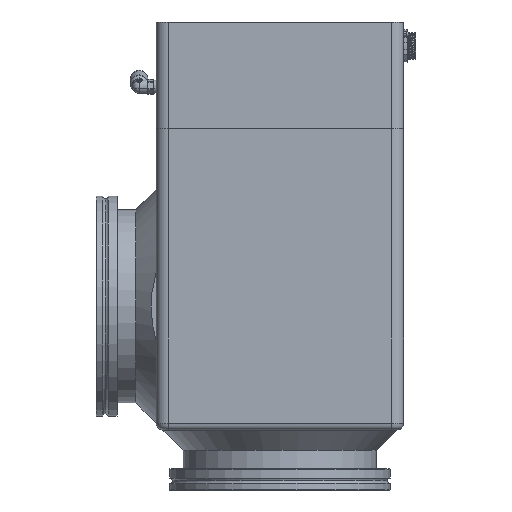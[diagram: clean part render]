
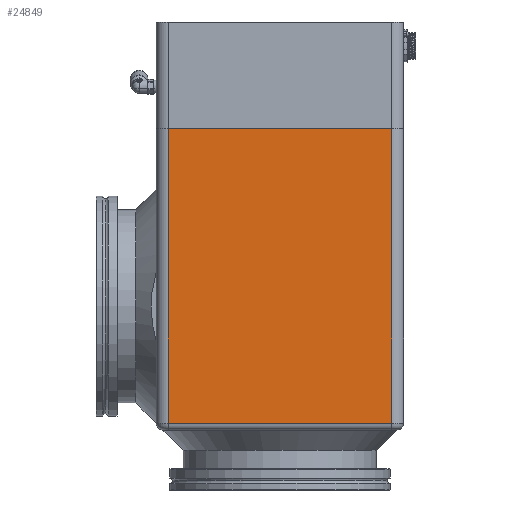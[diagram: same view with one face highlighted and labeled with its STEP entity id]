
A CAD part, front view. The second image highlights one B-rep face of the part: STEP entity #24849.
In plain terms, the highlighted planar face has unit normal (0, -1, 0).
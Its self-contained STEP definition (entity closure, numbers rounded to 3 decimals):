
#1167 = EDGE_CURVE ( 'NONE', #1512, #16035, #33810, .T. ) ;
#1198 = VERTEX_POINT ( 'NONE', #15408 ) ;
#1512 = VERTEX_POINT ( 'NONE', #25822 ) ;
#2343 = ORIENTED_EDGE ( 'NONE', *, *, #16369, .T. ) ;
#2649 = AXIS2_PLACEMENT_3D ( 'NONE', #25308, #33216, #20136 ) ;
#2697 = DIRECTION ( 'NONE',  ( 1., 0., 0. ) ) ;
#2864 = ORIENTED_EDGE ( 'NONE', *, *, #25215, .F. ) ;
#3201 = CARTESIAN_POINT ( 'NONE',  ( 66., -73., 178. ) ) ;
#4649 = DIRECTION ( 'NONE',  ( 0., 0., -1. ) ) ;
#4793 = EDGE_LOOP ( 'NONE', ( #27401, #2343, #32727, #2864 ) ) ;
#8348 = CARTESIAN_POINT ( 'NONE',  ( 66., -73., 4. ) ) ;
#9054 = VERTEX_POINT ( 'NONE', #19612 ) ;
#10178 = FACE_OUTER_BOUND ( 'NONE', #4793, .T. ) ;
#10196 = EDGE_CURVE ( 'NONE', #9054, #1198, #28411, .T. ) ;
#11405 = VECTOR ( 'NONE', #2697, 1000. ) ;
#12521 = VECTOR ( 'NONE', #28141, 1000. ) ;
#13712 = CARTESIAN_POINT ( 'NONE',  ( -73., -73., 178. ) ) ;
#14813 = PLANE ( 'NONE',  #2649 ) ;
#15408 = CARTESIAN_POINT ( 'NONE',  ( -66., -73., 4. ) ) ;
#16035 = VERTEX_POINT ( 'NONE', #3201 ) ;
#16369 = EDGE_CURVE ( 'NONE', #1198, #1512, #23994, .T. ) ;
#17635 = CARTESIAN_POINT ( 'NONE',  ( 66., -73., 178. ) ) ;
#19612 = CARTESIAN_POINT ( 'NONE',  ( -66., -73., 178. ) ) ;
#20136 = DIRECTION ( 'NONE',  ( 0., 0., 1. ) ) ;
#22717 = CARTESIAN_POINT ( 'NONE',  ( -66., -73., 178. ) ) ;
#23994 = LINE ( 'NONE', #8348, #32396 ) ;
#24849 = ADVANCED_FACE ( 'NONE', ( #10178 ), #14813, .F. ) ;
#25215 = EDGE_CURVE ( 'NONE', #9054, #16035, #29221, .T. ) ;
#25308 = CARTESIAN_POINT ( 'NONE',  ( -73., -73., 178. ) ) ;
#25822 = CARTESIAN_POINT ( 'NONE',  ( 66., -73., 4. ) ) ;
#27401 = ORIENTED_EDGE ( 'NONE', *, *, #10196, .T. ) ;
#28141 = DIRECTION ( 'NONE',  ( 0., 0., 1. ) ) ;
#28411 = LINE ( 'NONE', #22717, #31005 ) ;
#29221 = LINE ( 'NONE', #13712, #11405 ) ;
#31005 = VECTOR ( 'NONE', #4649, 1000. ) ;
#32082 = DIRECTION ( 'NONE',  ( 1., 0., 0. ) ) ;
#32396 = VECTOR ( 'NONE', #32082, 1000. ) ;
#32727 = ORIENTED_EDGE ( 'NONE', *, *, #1167, .T. ) ;
#33216 = DIRECTION ( 'NONE',  ( 0., 1., 0. ) ) ;
#33810 = LINE ( 'NONE', #17635, #12521 ) ;
